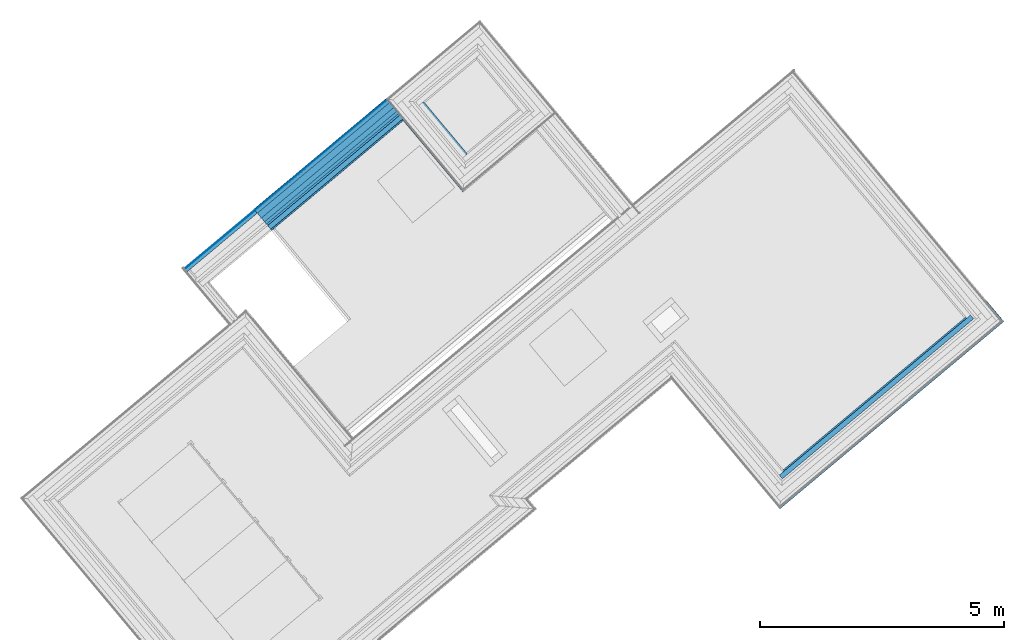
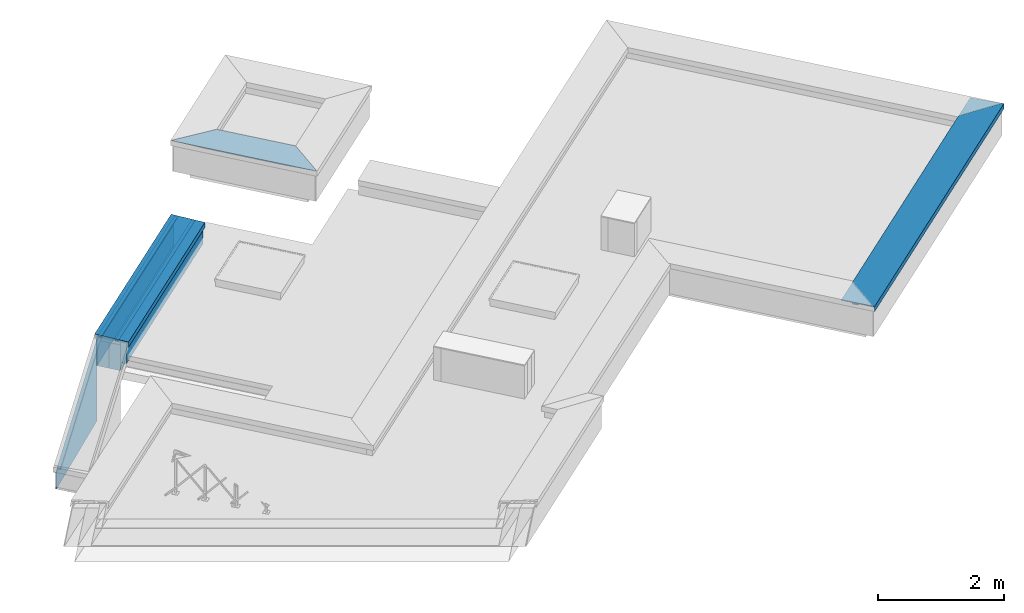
# One storey, part 9 of 15: 15 building element parts, 4 elements without a shape of their own.
"""IFC4 building model written with IfcOpenShell, lengths in metres."""

from ifc_helpers import new_model, entity, si_unit, converted_unit, derived_unit, direction, frame, origin_with_axes, place, context, subcontext, project, spatial, polygons, material, type_object, element, aggregate, save


model = new_model("IFC4")

# Units and contexts
model_context = context("Model", 3, precision=1e-05, world=origin_with_axes(), true_north=direction((0.0, 1.0)))
body_context = subcontext(model_context, "Body", "Model", "MODEL_VIEW")
ifc_project = project(units=[si_unit("LENGTHUNIT", "METRE"), si_unit("AREAUNIT", "SQUARE_METRE"), si_unit("VOLUMEUNIT", "CUBIC_METRE"), converted_unit("PLANEANGLEUNIT", "DEGREE", entity("IfcPlaneAngleMeasure", 0.0174532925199), si_unit("PLANEANGLEUNIT", "RADIAN"), dimensions=[0, 0, 0, 0, 0, 0, 0]), converted_unit("TIMEUNIT", "Year", entity("IfcTimeMeasure", 31556926.0), si_unit("TIMEUNIT", "SECOND"), dimensions=[0, 0, 1, 0, 0, 0, 0]), si_unit("MASSUNIT", "GRAM", prefix="KILO"), si_unit("THERMODYNAMICTEMPERATUREUNIT", "DEGREE_CELSIUS"), si_unit("LUMINOUSINTENSITYUNIT", "LUMEN"), si_unit("ENERGYUNIT", "JOULE", prefix="MEGA"), derived_unit("THERMALCONDUCTANCEUNIT", [(si_unit("POWERUNIT", "WATT"), 1), (si_unit("LENGTHUNIT", "METRE"), -1), (si_unit("THERMODYNAMICTEMPERATUREUNIT", "KELVIN"), -1)]), derived_unit("SPECIFICHEATCAPACITYUNIT", [(si_unit("ENERGYUNIT", "JOULE"), 1), (si_unit("MASSUNIT", "GRAM", prefix="KILO"), -1), (si_unit("THERMODYNAMICTEMPERATUREUNIT", "KELVIN"), -1)]), derived_unit("MASSDENSITYUNIT", [(si_unit("MASSUNIT", "GRAM", prefix="KILO"), 1), (si_unit("VOLUMEUNIT", "CUBIC_METRE"), -1)])], contexts=[model_context])

# Site, building, storey
site_placement = place(None, frame((-0.00153261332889, -0.00661245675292, 0.0), z_axis=(0.0, 0.0, 1.0), x_axis=(1.0, 0.0, 0.0)))
site = spatial("IfcSite", under=ifc_project, at=site_placement, Name="Site", CompositionType="ELEMENT")
building_placement = place(site_placement, origin_with_axes())
building = spatial("IfcBuilding", under=site, at=building_placement, Name="Building", CompositionType="ELEMENT")
storey_placement = place(building_placement, frame((0.0, 0.0, 11.84), z_axis=(0.0, 0.0, 1.0), x_axis=(1.0, 0.0, 0.0)))
storey = spatial("IfcBuildingStorey", under=building, at=storey_placement, Name="DA", CompositionType="ELEMENT", Elevation=11.84)

# Wall, building element part
wall_type_1 = type_object("IfcWallType", Name="Bauteil - Attika 574 x 610", PredefinedType="NOTDEFINED")
wall_1_placement = place(storey_placement, frame((1.33818690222, 24.5040825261, 0.96), z_axis=(0.0, 0.0, 1.0), x_axis=(-0.641161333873, 0.767406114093, 0.0)))
wall_1 = element("IfcWall", 1, at=wall_1_placement, inside=storey, type_object=wall_type_1, Name="Wand-002", PredefinedType="NOTDEFINED")
ifc_material_1 = material(Name="Holzwerkstoff")
building_element_part_1_placement = place(wall_1_placement, origin_with_axes())
building_element_part_1 = element("IfcBuildingElementPart", 2, at=building_element_part_1_placement, material=ifc_material_1, Name="Holzwerkstoff", PredefinedType="NOTDEFINED", context=body_context, shape_type="Tessellation", body=[
    polygons([(1.6709618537, -0.330207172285, 0.573880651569), (1.67116904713, -0.329999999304, 0.567947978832), (1.67095117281, -0.160110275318, 0.573880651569), (1.67088855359, -0.330280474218, 0.575979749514), (1.67060794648, -0.330561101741, 0.584015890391), (1.67053495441, -0.330634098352, 0.586106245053), (1.67047097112, -0.330698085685, 0.587938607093), (0.330719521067, -0.330698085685, 0.587938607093), (0.33065552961, -0.330634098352, 0.586106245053), (0.330582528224, -0.330561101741, 0.584015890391), (0.330301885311, -0.330280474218, 0.575979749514), (0.330228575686, -0.330207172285, 0.573880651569), (0.33002138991, -0.329999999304, 0.567947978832), (0.330217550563, -0.160110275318, 0.573880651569), (1.67087409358, -0.100000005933, 0.575979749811), (1.67057901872, 0.130124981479, 0.584015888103), (1.67050226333, 0.189984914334, 0.586106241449), (1.67043813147, 0.239999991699, 0.587852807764), (1.67043513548, 0.2399969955, 0.587938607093), (2.24040977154, 0.239276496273, 0.608570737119), (-0.239291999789, 0.239276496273, 0.608570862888), (0.33068732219, -0.330698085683, 0.587938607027), (0.330682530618, 0.2399969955, 0.587938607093), (0.330679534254, 0.239999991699, 0.587852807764), (0.330621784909, 0.189985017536, 0.586106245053), (0.330552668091, 0.130124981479, 0.584015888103), (0.330286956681, -0.100000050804, 0.575979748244)], [[[1, 2, 3]], [[2, 1, 4, 5, 6, 7, 8, 9, 10, 11, 12, 13]], [[3, 2, 13, 14]], [[3, 15, 4, 1]], [[15, 16, 5, 4]], [[16, 17, 6, 5]], [[17, 18, 19, 7, 6]], [[7, 20, 21, 22, 8]], [[23, 24, 25, 9, 8]], [[25, 26, 10, 9]], [[26, 27, 11, 10]], [[27, 14, 12, 11]], [[14, 13, 12]], [[15, 3, 14, 27]], [[16, 15, 27, 26]], [[17, 16, 26, 25]], [[18, 17, 25, 24]], [[19, 18, 24, 23, 21, 20]], [[7, 19, 20]], [[21, 23, 8, 22]]], closed=True),
])
aggregate(wall_1, [building_element_part_1])

# Wall, building element parts
wall_2_placement = place(storey_placement, frame((-0.109855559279, 25.9019158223, -0.49), z_axis=(0.0, 0.0, 1.0), x_axis=(-0.767365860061, -0.641209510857, 0.0)))
wall_2 = element("IfcWall", 3, at=wall_2_placement, inside=storey, type_object=wall_type_1, Name="Wand-004", PredefinedType="NOTDEFINED")
ifc_material_2 = material(Name="Stahl")
building_element_part_2_placement = place(wall_2_placement, origin_with_axes())
building_element_part_2 = element("IfcBuildingElementPart", 4, at=building_element_part_2_placement, material=ifc_material_2, Name="Stahl", PredefinedType="NOTDEFINED", context=body_context, shape_type="Tessellation", body=[
    polygons([(0.0, 0.332051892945, 0.589243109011), (3.53906479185, 0.332051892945, 0.589243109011), (3.53906479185, 0.332051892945, 0.489652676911), (0.0, 0.332051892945, 0.489652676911), (0.0, -0.241500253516, 0.610006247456), (3.53906479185, -0.241500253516, 0.610006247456), (3.53906479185, -0.241500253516, 0.510007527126), (3.53906479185, -0.240542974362, 0.509050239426), (3.53906479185, -0.231373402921, 0.518219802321), (3.53906479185, -0.232283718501, 0.519224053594), (3.53906479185, -0.240146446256, 0.51136132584), (3.53906479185, -0.240152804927, 0.608602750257), (3.53906479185, -0.239276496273, 0.608570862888), (3.53906479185, 0.330698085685, 0.587937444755), (3.53906479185, 0.330698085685, 0.491006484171), (3.53906479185, 0.32288233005, 0.498822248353), (3.53906479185, 0.321878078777, 0.497911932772), (3.53906479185, 0.331094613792, 0.488695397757), (0.0, 0.331094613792, 0.488695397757), (0.0, 0.321878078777, 0.497911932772), (0.0, 0.32288233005, 0.498822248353), (0.0, 0.330698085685, 0.491006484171), (0.0, 0.330698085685, 0.587937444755), (0.0, -0.239276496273, 0.608570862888), (0.0, -0.240152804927, 0.608602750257), (0.0, -0.240146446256, 0.51136132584), (0.0, -0.232283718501, 0.519224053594), (0.0, -0.231373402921, 0.518219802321), (0.0, -0.240542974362, 0.509050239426), (0.0, -0.241500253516, 0.510007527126)], [[[1, 2, 3, 4]], [[5, 6, 2, 1]], [[3, 2, 6, 7, 8, 9, 10, 11, 12, 13, 14, 15, 16, 17, 18]], [[4, 3, 18, 19]], [[5, 1, 4, 19, 20, 21, 22, 23, 24, 25, 26, 27, 28, 29, 30]], [[30, 7, 6, 5]], [[29, 8, 7, 30]], [[28, 9, 8, 29]], [[27, 10, 9, 28]], [[26, 11, 10, 27]], [[25, 12, 11, 26]], [[24, 13, 12, 25]], [[23, 14, 13, 24]], [[22, 15, 14, 23]], [[21, 16, 15, 22]], [[20, 17, 16, 21]], [[19, 18, 17, 20]]], closed=True),
])
building_element_part_3_placement = place(wall_2_placement, origin_with_axes())
building_element_part_3 = element("IfcBuildingElementPart", 5, at=building_element_part_3_placement, material=ifc_material_1, Name="Holzwerkstoff", PredefinedType="NOTDEFINED", context=body_context, shape_type="Tessellation", body=[
    polygons([(0.0, 0.330698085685, 0.587938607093), (3.53906479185, 0.330698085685, 0.587938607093), (3.53906479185, 0.329999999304, 0.567947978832), (0.0, 0.329999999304, 0.567947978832), (0.0, -0.239276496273, 0.608570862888), (3.53906479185, -0.239276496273, 0.608570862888), (3.53906479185, -0.239999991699, 0.587852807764), (3.53906479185, -0.189984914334, 0.586106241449), (3.53906479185, -0.130124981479, 0.584015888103), (3.53906479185, 0.100000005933, 0.575979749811), (3.53906479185, 0.160110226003, 0.573880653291), (0.0, 0.160110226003, 0.573880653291), (0.0, 0.100000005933, 0.575979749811), (0.0, -0.130124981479, 0.584015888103), (0.0, -0.189984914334, 0.586106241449), (0.0, -0.239999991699, 0.587852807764)], [[[1, 2, 3, 4]], [[5, 6, 2, 1]], [[3, 2, 6, 7, 8, 9, 10, 11]], [[4, 3, 11, 12]], [[5, 1, 4, 12, 13, 14, 15, 16]], [[16, 7, 6, 5]], [[15, 8, 7, 16]], [[14, 9, 8, 15]], [[13, 10, 9, 14]], [[12, 11, 10, 13]]], closed=True),
])
ifc_material_3 = material(Name="EPS 1")
building_element_part_4_placement = place(wall_2_placement, origin_with_axes())
building_element_part_4 = element("IfcBuildingElementPart", 6, at=building_element_part_4_placement, material=ifc_material_3, Name="EPS 1", PredefinedType="NOTDEFINED", context=body_context, shape_type="Tessellation", body=[
    polygons([(0.0, 0.30000000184, 0.165000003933), (3.53906479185, 0.30000000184, 0.165000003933), (3.53906479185, 0.200000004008, 0.165000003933), (0.0, 0.200000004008, 0.165000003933), (0.0, 0.30000000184, 0.560000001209), (3.53906479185, 0.30000000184, 0.560000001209), (3.53906479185, 0.200000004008, 0.560000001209), (0.0, 0.200000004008, 0.560000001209)], [[[1, 2, 3, 4]], [[5, 6, 2, 1]], [[3, 2, 6, 7]], [[4, 3, 7, 8]], [[5, 1, 4, 8]], [[8, 7, 6, 5]]], closed=True),
])
ifc_material_4 = material(Name="Vollholz")
building_element_part_5_placement = place(wall_2_placement, origin_with_axes())
building_element_part_5 = element("IfcBuildingElementPart", 7, at=building_element_part_5_placement, material=ifc_material_4, Name="Vollholz", PredefinedType="NOTDEFINED", context=body_context, shape_type="Tessellation", body=[
    polygons([(0.0, 0.1, 0.575979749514), (3.53906479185, 0.1, 0.575979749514), (3.53906479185, 0.160110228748, 0.573880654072), (0.0, 0.160110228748, 0.573880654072), (0.0, 0.1, 0.560000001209), (3.53906479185, 0.1, 0.560000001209), (3.53906479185, 0.16, 0.560000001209), (0.0, 0.16, 0.560000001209)], [[[1, 2, 3, 4]], [[5, 6, 2, 1]], [[3, 2, 6, 7]], [[4, 3, 7, 8]], [[5, 1, 4, 8]], [[8, 7, 6, 5]]], closed=True),
])
ifc_material_5 = material(Name="Stahlbeton Wand Garage")
building_element_part_6_placement = place(wall_2_placement, origin_with_axes())
building_element_part_6 = element("IfcBuildingElementPart", 8, at=building_element_part_6_placement, material=ifc_material_5, Name="Stahlbeton Wand Garage", PredefinedType="NOTDEFINED", context=body_context, shape_type="Tessellation", body=[
    polygons([(0.0, 0.200000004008, 0.165000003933), (3.53906479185, 0.200000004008, 0.165000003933), (3.53906479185, 0.2, 0.0), (0.0, 0.2, 0.0), (0.0, 0.2, 0.5), (3.53906479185, 0.2, 0.5), (3.53906479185, 0.0, 0.5), (3.53906479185, 0.0, 0.0), (0.0, 0.0, 0.0), (0.0, 0.0, 0.5)], [[[1, 2, 3, 4]], [[5, 6, 2, 1]], [[3, 2, 6, 7, 8]], [[4, 3, 8, 9]], [[5, 1, 4, 9, 10]], [[10, 7, 6, 5]], [[9, 8, 7, 10]]], closed=True),
])
ifc_material_6 = material(Name="Brettschichtholz")
building_element_part_7_placement = place(wall_2_placement, origin_with_axes())
building_element_part_7 = element("IfcBuildingElementPart", 9, at=building_element_part_7_placement, material=ifc_material_6, Name="Brettschichtholz", PredefinedType="NOTDEFINED", context=body_context, shape_type="Tessellation", body=[
    polygons([(0.0, -0.130124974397, 0.56000000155), (3.53906479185, -0.130124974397, 0.56000000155), (3.53906479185, 0.0999999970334, 0.56000000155), (0.0, 0.0999999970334, 0.56000000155), (0.0, -0.19012497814, 0.56000000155), (3.53906479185, -0.19012497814, 0.56000000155), (3.53906479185, -0.214999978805, 0.56000000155), (3.53906479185, -0.214999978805, 0.499999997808), (3.53906479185, 0.200000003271, 0.499999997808), (3.53906479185, 0.200000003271, 0.56000000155), (3.53906479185, 0.160000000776, 0.56000000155), (0.0, 0.160000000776, 0.56000000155), (0.0, 0.200000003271, 0.56000000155), (0.0, 0.200000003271, 0.499999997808), (0.0, -0.214999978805, 0.499999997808), (0.0, -0.214999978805, 0.56000000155)], [[[1, 2, 3, 4]], [[5, 6, 2, 1]], [[3, 2, 6, 7, 8, 9, 10, 11]], [[4, 3, 11, 12]], [[5, 1, 4, 12, 13, 14, 15, 16]], [[16, 7, 6, 5]], [[15, 8, 7, 16]], [[14, 9, 8, 15]], [[13, 10, 9, 14]], [[12, 11, 10, 13]]], closed=True),
])
building_element_part_8_placement = place(wall_2_placement, origin_with_axes())
building_element_part_8 = element("IfcBuildingElementPart", 10, at=building_element_part_8_placement, material=ifc_material_3, Name="EPS 1", PredefinedType="NOTDEFINED", context=body_context, shape_type="Tessellation", body=[
    polygons([(0.0, -0.19999996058, 0.5), (3.53906479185, -0.19999996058, 0.5), (3.53906479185, 2.16659046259e-09, 0.5), (0.0, 2.16659046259e-09, 0.5), (0.0, -0.19999996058, 0.0), (3.53906479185, -0.19999996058, 0.0), (3.53906479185, 2.16659046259e-09, 0.0), (0.0, 2.16659046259e-09, 0.0)], [[[1, 2, 3, 4]], [[5, 6, 2, 1]], [[3, 2, 6, 7]], [[4, 3, 7, 8]], [[5, 1, 4, 8]], [[8, 7, 6, 5]]], closed=True),
])
building_element_part_9_placement = place(wall_2_placement, origin_with_axes())
building_element_part_9 = element("IfcBuildingElementPart", 11, at=building_element_part_9_placement, material=ifc_material_4, Name="Vollholz", PredefinedType="NOTDEFINED", context=body_context, shape_type="Tessellation", body=[
    polygons([(0.0, -0.189984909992, 0.586106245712), (3.53906479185, -0.189984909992, 0.586106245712), (3.53906479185, -0.130124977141, 0.584015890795), (0.0, -0.130124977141, 0.584015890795), (0.0, -0.190124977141, 0.560000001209), (3.53906479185, -0.190124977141, 0.560000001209), (3.53906479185, -0.130124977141, 0.560000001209), (0.0, -0.130124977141, 0.560000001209)], [[[1, 2, 3, 4]], [[5, 6, 2, 1]], [[3, 2, 6, 7]], [[4, 3, 7, 8]], [[5, 1, 4, 8]], [[8, 7, 6, 5]]], closed=True),
])
ifc_material_7 = material(Name="Zementputz")
building_element_part_10_placement = place(wall_2_placement, origin_with_axes())
building_element_part_10 = element("IfcBuildingElementPart", 12, at=building_element_part_10_placement, material=ifc_material_7, Name="Zementputz", PredefinedType="NOTDEFINED", context=body_context, shape_type="Tessellation", body=[
    polygons([(0.0, -0.199999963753, 0.0), (3.53906479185, -0.199999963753, 0.0), (3.53906479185, -0.214999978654, 0.0), (0.0, -0.214999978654, 0.0), (0.0, -0.199999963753, 0.5), (3.53906479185, -0.199999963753, 0.5), (3.53906479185, -0.214999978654, 0.5), (0.0, -0.214999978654, 0.5)], [[[1, 2, 3, 4]], [[5, 6, 2, 1]], [[3, 2, 6, 7]], [[4, 3, 7, 8]], [[5, 1, 4, 8]], [[8, 7, 6, 5]]], closed=True),
])
aggregate(wall_2, [building_element_part_2, building_element_part_3, building_element_part_4, building_element_part_5, building_element_part_6, building_element_part_7, building_element_part_8, building_element_part_9, building_element_part_10])

wall_type_2 = type_object("IfcWallType", Name="Individuelles Profil 574 x 610", PredefinedType="NOTDEFINED")
wall_3_placement = place(storey_placement, frame((12.0618093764, 21.5422970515, 0.0), z_axis=(0.0, 0.0, 1.0), x_axis=(-0.766948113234, -0.641709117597, 0.0)))
wall_3 = element("IfcWall", 13, at=wall_3_placement, inside=storey, type_object=wall_type_2, Name="Wand-004", PredefinedType="NOTDEFINED")
building_element_part_11_placement = place(wall_3_placement, origin_with_axes())
building_element_part_11 = element("IfcBuildingElementPart", 14, at=building_element_part_11_placement, material=ifc_material_3, Name="EPS 1", PredefinedType="NOTDEFINED", context=body_context, shape_type="Tessellation", body=[
    polygons([(0.199869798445, -0.200000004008, 0.519224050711), (0.199869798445, -0.200000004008, 0.560000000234), (5.31373490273, -0.200000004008, 0.560000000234), (5.31373490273, -0.200000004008, 0.519224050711), (5.31373490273, -0.200000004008, 0.51136132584), (5.31373490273, -0.200000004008, 0.509050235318), (5.31373490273, -0.200000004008, 0.499999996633), (5.31373490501, -0.200000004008, 0.498822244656), (5.31373490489, -0.200000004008, 0.491006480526), (5.31373490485, -0.200000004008, 0.488695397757), (5.31373490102, -0.200000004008, 0.235000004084), (0.199869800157, -0.200000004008, 0.235000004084), (0.19986979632, -0.200000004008, 0.488695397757), (0.199869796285, -0.200000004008, 0.491006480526), (0.199869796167, -0.200000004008, 0.498822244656), (0.199869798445, -0.20000000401, 0.499999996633), (0.199869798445, -0.200000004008, 0.509050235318), (0.199869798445, -0.200000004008, 0.51136132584), (0.199804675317, -0.30000000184, 0.560000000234), (0.199804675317, -0.30000000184, 0.519224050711), (5.31373490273, -0.30000000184, 0.560000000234), (5.31373490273, -0.30000000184, 0.519224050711), (5.31373490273, -0.30000000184, 0.51136132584), (5.31373490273, -0.30000000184, 0.509050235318), (5.31373490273, -0.30000000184, 0.499999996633), (5.31373490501, -0.30000000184, 0.498822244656), (5.31373490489, -0.30000000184, 0.491006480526), (5.31373490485, -0.30000000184, 0.488695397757), (5.31373490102, -0.30000000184, 0.235000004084), (0.199804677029, -0.30000000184, 0.235000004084), (0.199804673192, -0.30000000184, 0.488695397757), (0.199804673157, -0.30000000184, 0.491006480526), (0.199804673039, -0.30000000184, 0.498822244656), (0.199804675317, -0.300000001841, 0.499999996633), (0.199804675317, -0.30000000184, 0.509050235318), (0.199804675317, -0.30000000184, 0.51136132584)], [[[1, 2, 3, 4, 5, 6, 7, 8, 9, 10, 11, 12, 13, 14, 15, 16, 17, 18]], [[19, 2, 1, 20]], [[2, 19, 21, 3]], [[4, 3, 21, 22]], [[4, 22, 23, 5]], [[5, 23, 24, 6]], [[6, 24, 25, 7]], [[7, 25, 26, 8]], [[8, 26, 27, 9]], [[9, 27, 28, 10]], [[10, 28, 29, 11]], [[30, 12, 11, 29]], [[31, 13, 12, 30]], [[32, 14, 13, 31]], [[33, 15, 14, 32]], [[34, 16, 15, 33]], [[35, 17, 16, 34]], [[36, 18, 17, 35]], [[20, 1, 18, 36]], [[19, 20, 36, 35, 34, 33, 32, 31, 30, 29, 28, 27, 26, 25, 24, 23, 22, 21]]], closed=True),
])
building_element_part_12_placement = place(wall_3_placement, origin_with_axes())
building_element_part_12 = element("IfcBuildingElementPart", 15, at=building_element_part_12_placement, material=ifc_material_1, Name="Holzwerkstoff", PredefinedType="NOTDEFINED", context=body_context, shape_type="Tessellation", body=[
    polygons([(5.75373488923, 0.239999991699, 0.587852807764), (5.75373193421, 0.239997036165, 0.587937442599), (5.75373193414, -0.330698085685, 0.587937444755), (5.75373488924, -0.330695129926, 0.587852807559), (-0.239843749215, 0.239999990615, 0.587852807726), (-0.239840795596, 0.239997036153, 0.587937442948), (-0.239120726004, 0.239276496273, 0.608570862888), (5.75301139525, 0.239276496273, 0.608570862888), (5.70371980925, -0.33063413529, 0.586106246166), (-0.240212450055, -0.330698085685, 0.587937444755), (-0.240215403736, -0.330695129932, 0.587852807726), (-0.190200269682, -0.330634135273, 0.586106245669), (-0.130340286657, -0.330561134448, 0.584015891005), (0.0997849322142, -0.330280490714, 0.575979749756), (0.159895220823, -0.330207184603, 0.573880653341), (0.329785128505, -0.329999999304, 0.567947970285), (5.18373494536, -0.329999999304, 0.567947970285), (5.35362467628, -0.330207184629, 0.573880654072), (5.41373490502, -0.330280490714, 0.575979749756), (5.64385988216, -0.33056113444, 0.584015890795), (5.70371980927, 0.189984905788, 0.586106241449), (-0.189861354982, 0.189984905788, 0.586106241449), (-0.130040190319, 0.130124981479, 0.584015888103), (0.0999348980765, -0.0999999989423, 0.575979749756), (0.160005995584, -0.160110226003, 0.573880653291), (5.35362467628, -0.160110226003, 0.573880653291), (5.41373490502, -0.0999999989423, 0.575979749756), (5.64385988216, 0.130125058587, 0.584015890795)], [[[1, 2, 3, 4]], [[2, 1, 5, 6, 7, 8]], [[2, 8, 3]], [[9, 4, 3, 10, 11, 12, 13, 14, 15, 16, 17, 18, 19, 20]], [[21, 1, 4, 9]], [[1, 21, 22, 5]], [[6, 5, 11, 10]], [[7, 6, 10]], [[3, 8, 7, 10]], [[5, 22, 12, 11]], [[13, 12, 22, 23]], [[14, 13, 23, 24]], [[25, 15, 14, 24]], [[25, 16, 15]], [[26, 17, 16, 25]], [[18, 17, 26]], [[19, 18, 26, 27]], [[20, 19, 27, 28]], [[28, 21, 9, 20]], [[21, 28, 23, 22]], [[27, 24, 23, 28]], [[27, 26, 25, 24]]], closed=True),
])
building_element_part_13_placement = place(wall_3_placement, origin_with_axes())
building_element_part_13 = element("IfcBuildingElementPart", 16, at=building_element_part_13_placement, material=ifc_material_2, Name="Stahl", PredefinedType="NOTDEFINED", context=body_context, shape_type="Tessellation", body=[
    polygons([(5.75523515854, 0.238231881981, 0.51136132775), (5.75523515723, 0.240146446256, 0.51136132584), (5.75388135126, 0.240146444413, 0.51136132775), (5.75388135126, 0.238231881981, 0.51136132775), (5.75523515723, 0.239585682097, 0.510007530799), (5.75523515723, 0.241500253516, 0.510007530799), (5.75523515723, 0.241500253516, 0.610006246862), (5.75523515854, 0.202730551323, 0.608602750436), (5.75523515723, 0.240152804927, 0.608602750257), (5.75388771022, 0.240152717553, 0.608602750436), (-0.239996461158, 0.240152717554, 0.608602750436), (-0.241343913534, 0.240152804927, 0.608602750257), (-0.241343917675, 0.240146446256, 0.51136132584), (-0.239990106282, 0.240146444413, 0.51136132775), (5.74601862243, 0.232283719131, 0.519224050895), (5.74702287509, 0.231373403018, 0.518219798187), (5.7542778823, 0.240542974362, 0.509050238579), (-0.233137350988, 0.231373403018, 0.518219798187), (-0.239991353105, 0.238231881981, 0.51136132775), (-0.24134516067, 0.238231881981, 0.51136132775), (-0.241344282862, 0.239585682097, 0.510007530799), (-0.240386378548, 0.240542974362, 0.509050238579), (-0.241343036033, 0.241500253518, 0.510007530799), (-0.241343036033, 0.241500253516, 0.610006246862), (5.75388771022, 0.202730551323, 0.608602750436), (-0.241368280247, 0.202730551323, 0.608602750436), (-0.240020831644, 0.202730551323, 0.608602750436), (-0.239145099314, 0.201849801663, 0.608570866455), (0.29441424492, -0.332051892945, 0.58924311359), (5.21910448, -0.332051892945, 0.58924311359), (5.75301139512, 0.201849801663, 0.608570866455), (5.75301139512, 0.239276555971, 0.608570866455), (-0.239120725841, 0.239276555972, 0.608570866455), (-0.239205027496, 0.23936090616, 0.608573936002), (-0.232132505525, 0.232283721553, 0.51922405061), (0.330482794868, -0.330698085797, 0.587937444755), (0.330481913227, -0.332051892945, 0.587937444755), (5.18359756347, -0.332051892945, 0.489652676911), (5.18495136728, -0.332051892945, 0.491006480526), (5.18303681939, -0.332051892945, 0.491006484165), (5.18303681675, -0.332051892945, 0.498822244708), (5.18303681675, -0.332051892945, 0.499999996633), (5.18303681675, -0.332051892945, 0.509050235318), (5.18303681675, -0.332051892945, 0.51136132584), (5.18303681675, -0.332051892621, 0.519224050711), (5.18303681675, -0.332051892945, 0.560000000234), (5.18303681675, -0.332051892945, 0.567947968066), (5.18303681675, -0.332051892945, 0.573880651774), (5.18303681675, -0.332051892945, 0.575979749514), (5.18303681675, -0.332051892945, 0.584015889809), (5.18303681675, -0.332051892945, 0.586106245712), (5.18303681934, -0.332051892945, 0.587937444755), (0.330481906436, -0.332051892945, 0.586106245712), (0.330481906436, -0.332051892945, 0.584015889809), (0.330481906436, -0.332051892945, 0.575979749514), (0.330481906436, -0.332051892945, 0.573880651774), (0.330481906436, -0.332051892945, 0.567947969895), (0.330481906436, -0.332051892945, 0.55999999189), (0.330481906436, -0.332051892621, 0.519224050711), (0.330481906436, -0.332051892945, 0.51136132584), (0.330481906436, -0.332051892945, 0.509050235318), (0.330481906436, -0.332051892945, 0.499999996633), (0.330481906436, -0.332051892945, 0.498822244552), (0.330481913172, -0.332051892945, 0.491006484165), (0.328567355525, -0.332051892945, 0.491006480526), (0.329921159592, -0.332051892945, 0.489652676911), (5.18303681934, -0.330698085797, 0.587937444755), (0.330482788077, -0.330698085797, 0.586106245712), (5.18495136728, -0.330698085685, 0.491006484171), (5.18264028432, -0.331094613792, 0.488695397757), (5.18495136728, -0.328783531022, 0.491006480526), (5.18303681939, -0.330698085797, 0.491006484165), (5.18303681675, -0.330698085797, 0.498822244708), (5.18303681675, -0.330698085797, 0.499999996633), (5.18303681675, -0.330698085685, 0.509050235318), (5.18303681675, -0.330698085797, 0.51136132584), (5.18303681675, -0.330698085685, 0.519224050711), (5.18303681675, -0.330698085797, 0.560000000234), (5.18303681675, -0.330698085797, 0.567947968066), (5.18303681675, -0.330698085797, 0.573880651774), (5.18303681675, -0.330698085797, 0.575979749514), (5.18303681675, -0.330698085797, 0.584015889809), (5.18303681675, -0.330698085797, 0.586106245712), (0.330482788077, -0.330698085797, 0.584015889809), (0.330482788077, -0.330698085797, 0.575979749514), (0.330482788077, -0.330698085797, 0.573880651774), (0.330482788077, -0.330698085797, 0.567947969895), (0.330482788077, -0.330698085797, 0.55999999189), (0.330482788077, -0.330698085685, 0.519224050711), (0.330482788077, -0.330698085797, 0.51136132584), (0.330482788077, -0.330698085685, 0.509050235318), (0.330482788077, -0.330698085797, 0.499999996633), (0.330482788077, -0.330698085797, 0.498822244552), (0.330482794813, -0.330698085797, 0.491006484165), (0.328568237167, -0.330698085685, 0.491006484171), (0.33087905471, -0.331094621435, 0.4886954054), (0.328569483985, -0.328783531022, 0.491006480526), (5.19185682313, -0.321878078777, 0.497911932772), (0.321668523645, -0.321878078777, 0.497911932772), (5.19185682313, -0.323792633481, 0.497911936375), (5.19085257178, -0.32288233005, 0.498822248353), (0.322672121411, -0.32288233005, 0.498822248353), (0.321667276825, -0.323792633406, 0.497911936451)], [[[1, 2, 3, 4]], [[5, 6, 7, 8, 9, 2, 1]], [[2, 9, 10, 11, 12, 13, 14, 3]], [[4, 3, 15, 16]], [[17, 5, 1, 4, 16, 18, 19, 20, 21, 22]], [[6, 5, 17]], [[7, 6, 23, 24]], [[25, 8, 7, 24, 26, 27, 28, 29, 30, 31]], [[10, 9, 8, 25]], [[10, 32, 33, 34, 11]], [[12, 11, 27, 26]], [[23, 21, 20, 13, 12, 26, 24]], [[14, 13, 20, 19]], [[15, 3, 14, 35]], [[16, 15, 35, 18]], [[35, 14, 19, 18]], [[22, 21, 23]], [[6, 17, 22, 23]], [[34, 33, 28, 27, 11]], [[36, 37, 29, 28, 33]], [[38, 39, 40, 41, 42, 43, 44, 45, 46, 47, 48, 49, 50, 51, 52, 30, 29, 37, 53, 54, 55, 56, 57, 58, 59, 60, 61, 62, 63, 64, 65, 66]], [[32, 31, 30, 52, 67]], [[32, 10, 25, 31]], [[32, 67, 36, 33]], [[53, 37, 36, 68]], [[69, 39, 38, 70, 71]], [[39, 69, 72, 40]], [[41, 40, 72, 73]], [[42, 41, 73, 74]], [[43, 42, 74, 75]], [[44, 43, 75, 76]], [[45, 44, 76, 77]], [[46, 45, 77, 78]], [[47, 46, 78, 79]], [[48, 47, 79, 80]], [[49, 48, 80, 81]], [[50, 49, 81, 82]], [[51, 50, 82, 83]], [[52, 51, 83, 67]], [[68, 84, 54, 53]], [[84, 85, 55, 54]], [[85, 86, 56, 55]], [[86, 87, 57, 56]], [[87, 88, 58, 57]], [[58, 88, 89, 59]], [[90, 60, 59, 89]], [[91, 61, 60, 90]], [[92, 62, 61, 91]], [[93, 63, 62, 92]], [[94, 64, 63, 93]], [[64, 94, 95, 65]], [[96, 66, 65, 95, 97]], [[70, 38, 66, 96]], [[73, 72, 94, 93, 92, 91, 90, 89, 88, 87, 86, 85, 84, 68, 36, 67, 83, 82, 81, 80, 79, 78, 77, 76, 75, 74]], [[98, 71, 70, 96, 97, 99]], [[69, 71, 98, 100]], [[69, 100, 101, 102, 103, 95, 94, 72]], [[99, 97, 95, 103]], [[101, 98, 99, 102]], [[100, 98, 101]], [[99, 103, 102]]], closed=True),
])
aggregate(wall_3, [building_element_part_11, building_element_part_12, building_element_part_13])

wall_type_3 = type_object("IfcWallType", Name="Bauteil - Attika 574 x 1710", PredefinedType="NOTDEFINED")
wall_4_placement = place(storey_placement, frame((-4.26699184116, 22.4282204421, -1.93990603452), z_axis=(0.0, 0.0, 1.0), x_axis=(0.641209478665, -0.76736588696, 0.0)))
wall_4 = element("IfcWall", 17, at=wall_4_placement, inside=storey, type_object=wall_type_3, Name="Träger-001", PredefinedType="NOTDEFINED")
building_element_part_14_placement = place(wall_4_placement, origin_with_axes())
building_element_part_14 = element("IfcBuildingElementPart", 18, at=building_element_part_14_placement, material=ifc_material_4, Name="Vollholz", PredefinedType="NOTDEFINED", context=body_context, shape_type="Tessellation", body=[
    polygons([(-0.190124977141, 1.87834618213, 1.99886592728), (-0.130124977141, 1.87834618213, 1.99886592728), (-0.130124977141, 0.0, 0.683633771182), (-0.190124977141, 0.0, 0.683633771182), (-0.189984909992, 1.87834618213, 2.03073576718), (-0.130124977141, 1.87834618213, 2.02818391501), (-0.130124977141, 0.0, 0.712951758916), (-0.189984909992, 0.0, 0.71550361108)], [[[1, 2, 3, 4]], [[5, 6, 2, 1]], [[2, 6, 7, 3]], [[3, 7, 8, 4]], [[5, 1, 4, 8]], [[6, 5, 8, 7]]], closed=True),
])
building_element_part_15_placement = place(wall_4_placement, origin_with_axes())
building_element_part_15 = element("IfcBuildingElementPart", 19, at=building_element_part_15_placement, material=ifc_material_7, Name="Zementputz", PredefinedType="NOTDEFINED", context=body_context, shape_type="Tessellation", body=[
    polygons([(-0.199999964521, 0.0, 0.288294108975), (-0.199999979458, 1.87834618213, 0.382515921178), (-0.19999996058, 1.87834618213, 1.9256194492), (-0.19999996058, 0.0, 0.610387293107), (-0.214999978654, 0.0, 0.288294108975), (-0.214999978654, 1.87834618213, 0.382515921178), (-0.214999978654, 1.87834618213, 1.9256194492), (-0.214999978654, 0.0, 0.610387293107)], [[[1, 2, 3, 4]], [[5, 6, 2, 1]], [[2, 6, 7, 3]], [[4, 3, 7, 8]], [[1, 4, 8, 5]], [[8, 7, 6, 5]]], closed=True),
])
aggregate(wall_4, [building_element_part_14, building_element_part_15])

save(model, "model.ifc")
